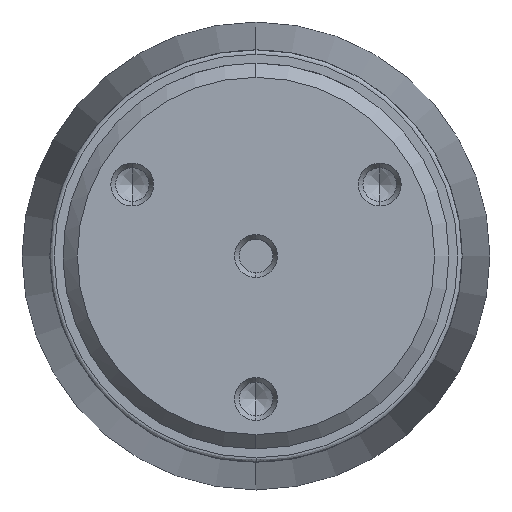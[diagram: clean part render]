
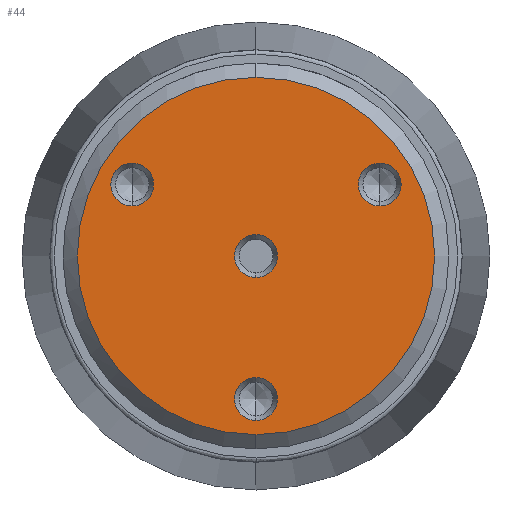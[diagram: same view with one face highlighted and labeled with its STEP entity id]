
A CAD part, left-side view. The second image highlights one B-rep face of the part: STEP entity #44.
In plain terms, the highlighted planar face has unit normal (-1, 0, 0).
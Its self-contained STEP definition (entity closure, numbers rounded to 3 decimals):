
#44=ADVANCED_FACE('',(#152,#153,#154,#155,#156),#151,.F.);
#151=PLANE('',#834);
#152=FACE_OUTER_BOUND('',#835,.T.);
#153=FACE_BOUND('',#836,.T.);
#154=FACE_BOUND('',#837,.T.);
#155=FACE_BOUND('',#838,.T.);
#156=FACE_BOUND('',#839,.T.);
#831=CARTESIAN_POINT('',(-37.007,-51.962,32.5));
#832=DIRECTION('',(1.,0.,0.));
#833=DIRECTION('',(0.,0.,-1.));
#834=AXIS2_PLACEMENT_3D('',#831,#832,#833);
#835=EDGE_LOOP('',(#1528,#1529));
#836=EDGE_LOOP('',(#1530,#1531));
#837=EDGE_LOOP('',(#1532,#1533));
#838=EDGE_LOOP('',(#1534,#1535));
#839=EDGE_LOOP('',(#1536,#1537));
#1528=ORIENTED_EDGE('',*,*,#1806,.T.);
#1529=ORIENTED_EDGE('',*,*,#1807,.T.);
#1530=ORIENTED_EDGE('',*,*,#1808,.F.);
#1531=ORIENTED_EDGE('',*,*,#1809,.F.);
#1532=ORIENTED_EDGE('',*,*,#1810,.F.);
#1533=ORIENTED_EDGE('',*,*,#1811,.F.);
#1534=ORIENTED_EDGE('',*,*,#1812,.F.);
#1535=ORIENTED_EDGE('',*,*,#1813,.F.);
#1536=ORIENTED_EDGE('',*,*,#1814,.F.);
#1537=ORIENTED_EDGE('',*,*,#1815,.F.);
#1806=EDGE_CURVE('',#2016,#2017,#2018,.T.);
#1807=EDGE_CURVE('',#2017,#2016,#2024,.T.);
#1808=EDGE_CURVE('',#2030,#2031,#2032,.T.);
#1809=EDGE_CURVE('',#2031,#2030,#2038,.T.);
#1810=EDGE_CURVE('',#2044,#2045,#2046,.T.);
#1811=EDGE_CURVE('',#2045,#2044,#2052,.T.);
#1812=EDGE_CURVE('',#2058,#2059,#2060,.T.);
#1813=EDGE_CURVE('',#2059,#2058,#2066,.T.);
#1814=EDGE_CURVE('',#2072,#2073,#2074,.T.);
#1815=EDGE_CURVE('',#2073,#2072,#2080,.T.);
#2016=VERTEX_POINT('',#2909);
#2017=VERTEX_POINT('',#2910);
#2018=CIRCLE('',#2914,25.);
#2024=CIRCLE('',#2918,25.);
#2030=VERTEX_POINT('',#2919);
#2031=VERTEX_POINT('',#2920);
#2032=CIRCLE('',#2924,3.);
#2038=CIRCLE('',#2928,3.);
#2044=VERTEX_POINT('',#2929);
#2045=VERTEX_POINT('',#2930);
#2046=CIRCLE('',#2934,3.);
#2052=CIRCLE('',#2938,3.);
#2058=VERTEX_POINT('',#2939);
#2059=VERTEX_POINT('',#2940);
#2060=CIRCLE('',#2944,3.);
#2066=CIRCLE('',#2948,3.);
#2072=VERTEX_POINT('',#2949);
#2073=VERTEX_POINT('',#2950);
#2074=CIRCLE('',#2954,3.);
#2080=CIRCLE('',#2958,3.);
#2909=CARTESIAN_POINT('',(-37.007,0.,25.));
#2910=CARTESIAN_POINT('',(-37.007,0.,-25.));
#2911=CARTESIAN_POINT('',(-37.007,0.,0.));
#2912=DIRECTION('',(-1.,0.,0.));
#2913=DIRECTION('',(0.,0.,1.));
#2914=AXIS2_PLACEMENT_3D('',#2911,#2912,#2913);
#2915=CARTESIAN_POINT('',(-37.007,0.,0.));
#2916=DIRECTION('',(-1.,0.,0.));
#2917=DIRECTION('',(0.,0.,1.));
#2918=AXIS2_PLACEMENT_3D('',#2915,#2916,#2917);
#2919=CARTESIAN_POINT('',(-37.007,17.321,7.));
#2920=CARTESIAN_POINT('',(-37.007,17.321,13.));
#2921=CARTESIAN_POINT('',(-37.007,17.321,10.));
#2922=DIRECTION('',(-1.,0.,0.));
#2923=DIRECTION('',(0.,0.,1.));
#2924=AXIS2_PLACEMENT_3D('',#2921,#2922,#2923);
#2925=CARTESIAN_POINT('',(-37.007,17.321,10.));
#2926=DIRECTION('',(-1.,0.,0.));
#2927=DIRECTION('',(0.,0.,1.));
#2928=AXIS2_PLACEMENT_3D('',#2925,#2926,#2927);
#2929=CARTESIAN_POINT('',(-37.007,0.,-3.));
#2930=CARTESIAN_POINT('',(-37.007,0.,3.));
#2931=CARTESIAN_POINT('',(-37.007,0.,0.));
#2932=DIRECTION('',(-1.,0.,0.));
#2933=DIRECTION('',(0.,0.,1.));
#2934=AXIS2_PLACEMENT_3D('',#2931,#2932,#2933);
#2935=CARTESIAN_POINT('',(-37.007,0.,0.));
#2936=DIRECTION('',(-1.,0.,0.));
#2937=DIRECTION('',(0.,0.,1.));
#2938=AXIS2_PLACEMENT_3D('',#2935,#2936,#2937);
#2939=CARTESIAN_POINT('',(-37.007,0.,-23.));
#2940=CARTESIAN_POINT('',(-37.007,0.,-17.));
#2941=CARTESIAN_POINT('',(-37.007,0.,-20.));
#2942=DIRECTION('',(-1.,0.,0.));
#2943=DIRECTION('',(0.,0.,1.));
#2944=AXIS2_PLACEMENT_3D('',#2941,#2942,#2943);
#2945=CARTESIAN_POINT('',(-37.007,0.,-20.));
#2946=DIRECTION('',(-1.,0.,0.));
#2947=DIRECTION('',(0.,0.,1.));
#2948=AXIS2_PLACEMENT_3D('',#2945,#2946,#2947);
#2949=CARTESIAN_POINT('',(-37.007,-17.321,7.));
#2950=CARTESIAN_POINT('',(-37.007,-17.321,13.));
#2951=CARTESIAN_POINT('',(-37.007,-17.321,10.));
#2952=DIRECTION('',(-1.,0.,0.));
#2953=DIRECTION('',(0.,0.,1.));
#2954=AXIS2_PLACEMENT_3D('',#2951,#2952,#2953);
#2955=CARTESIAN_POINT('',(-37.007,-17.321,10.));
#2956=DIRECTION('',(-1.,0.,0.));
#2957=DIRECTION('',(0.,0.,1.));
#2958=AXIS2_PLACEMENT_3D('',#2955,#2956,#2957);
